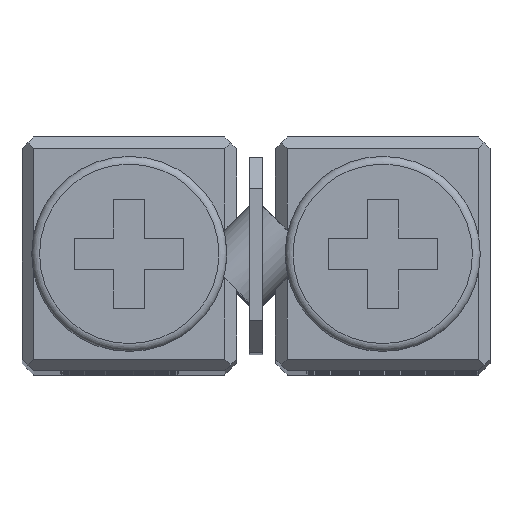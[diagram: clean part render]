
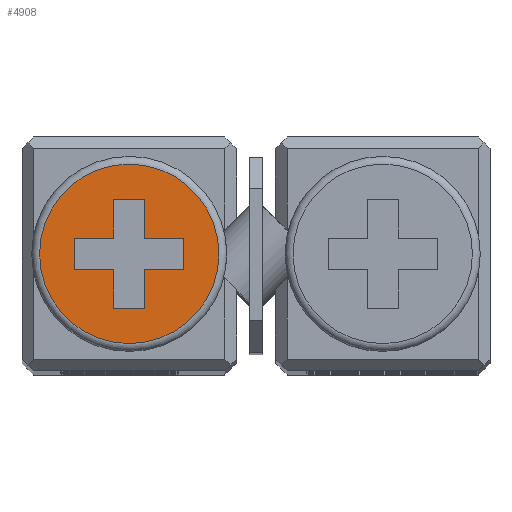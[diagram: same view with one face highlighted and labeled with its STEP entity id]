
A CAD part, top view. The second image highlights one B-rep face of the part: STEP entity #4908.
In plain terms, the highlighted planar face has unit normal (0, 0, 1).
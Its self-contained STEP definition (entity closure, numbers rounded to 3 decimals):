
#247=LINE('',#7080,#689);
#248=LINE('',#7083,#690);
#249=LINE('',#7085,#691);
#250=LINE('',#7087,#692);
#251=LINE('',#7089,#693);
#252=LINE('',#7091,#694);
#253=LINE('',#7093,#695);
#254=LINE('',#7095,#696);
#255=LINE('',#7097,#697);
#256=LINE('',#7099,#698);
#257=LINE('',#7101,#699);
#258=LINE('',#7103,#700);
#689=VECTOR('',#5773,1000.);
#690=VECTOR('',#5774,1000.);
#691=VECTOR('',#5775,1000.);
#692=VECTOR('',#5776,1000.);
#693=VECTOR('',#5777,1000.);
#694=VECTOR('',#5778,1000.);
#695=VECTOR('',#5779,1000.);
#696=VECTOR('',#5780,1000.);
#697=VECTOR('',#5781,1000.);
#698=VECTOR('',#5782,1000.);
#699=VECTOR('',#5783,1000.);
#700=VECTOR('',#5784,1000.);
#1250=ORIENTED_EDGE('',*,*,#2418,.F.);
#1251=ORIENTED_EDGE('',*,*,#2419,.F.);
#1252=ORIENTED_EDGE('',*,*,#2420,.F.);
#1253=ORIENTED_EDGE('',*,*,#2421,.F.);
#1254=ORIENTED_EDGE('',*,*,#2422,.F.);
#1255=ORIENTED_EDGE('',*,*,#2423,.F.);
#1256=ORIENTED_EDGE('',*,*,#2424,.F.);
#1257=ORIENTED_EDGE('',*,*,#2425,.F.);
#1258=ORIENTED_EDGE('',*,*,#2426,.F.);
#1259=ORIENTED_EDGE('',*,*,#2427,.F.);
#1260=ORIENTED_EDGE('',*,*,#2428,.F.);
#1261=ORIENTED_EDGE('',*,*,#2429,.F.);
#1262=ORIENTED_EDGE('',*,*,#2430,.T.);
#2418=EDGE_CURVE('',#3016,#3017,#247,.T.);
#2419=EDGE_CURVE('',#3018,#3016,#248,.T.);
#2420=EDGE_CURVE('',#3019,#3018,#249,.T.);
#2421=EDGE_CURVE('',#3020,#3019,#250,.T.);
#2422=EDGE_CURVE('',#3021,#3020,#251,.T.);
#2423=EDGE_CURVE('',#3022,#3021,#252,.T.);
#2424=EDGE_CURVE('',#3023,#3022,#253,.T.);
#2425=EDGE_CURVE('',#3024,#3023,#254,.T.);
#2426=EDGE_CURVE('',#3025,#3024,#255,.T.);
#2427=EDGE_CURVE('',#3026,#3025,#256,.T.);
#2428=EDGE_CURVE('',#3027,#3026,#257,.T.);
#2429=EDGE_CURVE('',#3017,#3027,#258,.T.);
#2430=EDGE_CURVE('',#3028,#3028,#3386,.T.);
#3016=VERTEX_POINT('',#7081);
#3017=VERTEX_POINT('',#7082);
#3018=VERTEX_POINT('',#7084);
#3019=VERTEX_POINT('',#7086);
#3020=VERTEX_POINT('',#7088);
#3021=VERTEX_POINT('',#7090);
#3022=VERTEX_POINT('',#7092);
#3023=VERTEX_POINT('',#7094);
#3024=VERTEX_POINT('',#7096);
#3025=VERTEX_POINT('',#7098);
#3026=VERTEX_POINT('',#7100);
#3027=VERTEX_POINT('',#7102);
#3028=VERTEX_POINT('',#7105);
#3386=CIRCLE('',#5180,2.3);
#3569=EDGE_LOOP('',(#1250,#1251,#1252,#1253,#1254,#1255,#1256,#1257,#1258,
#1259,#1260,#1261));
#3570=EDGE_LOOP('',(#1262));
#3885=FACE_BOUND('',#3569,.T.);
#3886=FACE_BOUND('',#3570,.T.);
#4166=PLANE('',#5179);
#4908=ADVANCED_FACE('',(#3885,#3886),#4166,.T.);
#5179=AXIS2_PLACEMENT_3D('',#7079,#5771,#5772);
#5180=AXIS2_PLACEMENT_3D('',#7104,#5785,#5786);
#5771=DIRECTION('',(0.,0.,1.));
#5772=DIRECTION('',(1.,0.,0.));
#5773=DIRECTION('',(-1.,0.,0.));
#5774=DIRECTION('',(0.,-1.,0.));
#5775=DIRECTION('',(-1.,0.,0.));
#5776=DIRECTION('',(0.,1.,0.));
#5777=DIRECTION('',(-1.,0.,0.));
#5778=DIRECTION('',(0.,1.,0.));
#5779=DIRECTION('',(1.,0.,0.));
#5780=DIRECTION('',(0.,1.,0.));
#5781=DIRECTION('',(1.,0.,0.));
#5782=DIRECTION('',(0.,-1.,0.));
#5783=DIRECTION('',(1.,0.,0.));
#5784=DIRECTION('',(0.,-1.,0.));
#5785=DIRECTION('',(0.,0.,1.));
#5786=DIRECTION('',(1.,0.,0.));
#7079=CARTESIAN_POINT('',(0.,0.,1.4));
#7080=CARTESIAN_POINT('',(-0.4,0.4,1.4));
#7081=CARTESIAN_POINT('',(-0.4,0.4,1.4));
#7082=CARTESIAN_POINT('',(-1.4,0.4,1.4));
#7083=CARTESIAN_POINT('',(-0.4,1.4,1.4));
#7084=CARTESIAN_POINT('',(-0.4,1.4,1.4));
#7085=CARTESIAN_POINT('',(0.4,1.4,1.4));
#7086=CARTESIAN_POINT('',(0.4,1.4,1.4));
#7087=CARTESIAN_POINT('',(0.4,0.4,1.4));
#7088=CARTESIAN_POINT('',(0.4,0.4,1.4));
#7089=CARTESIAN_POINT('',(1.4,0.4,1.4));
#7090=CARTESIAN_POINT('',(1.4,0.4,1.4));
#7091=CARTESIAN_POINT('',(1.4,-0.4,1.4));
#7092=CARTESIAN_POINT('',(1.4,-0.4,1.4));
#7093=CARTESIAN_POINT('',(0.4,-0.4,1.4));
#7094=CARTESIAN_POINT('',(0.4,-0.4,1.4));
#7095=CARTESIAN_POINT('',(0.4,-1.4,1.4));
#7096=CARTESIAN_POINT('',(0.4,-1.4,1.4));
#7097=CARTESIAN_POINT('',(-0.4,-1.4,1.4));
#7098=CARTESIAN_POINT('',(-0.4,-1.4,1.4));
#7099=CARTESIAN_POINT('',(-0.4,-0.4,1.4));
#7100=CARTESIAN_POINT('',(-0.4,-0.4,1.4));
#7101=CARTESIAN_POINT('',(-1.4,-0.4,1.4));
#7102=CARTESIAN_POINT('',(-1.4,-0.4,1.4));
#7103=CARTESIAN_POINT('',(-1.4,0.4,1.4));
#7104=CARTESIAN_POINT('',(0.,0.,1.4));
#7105=CARTESIAN_POINT('',(2.3,0.,1.4));
